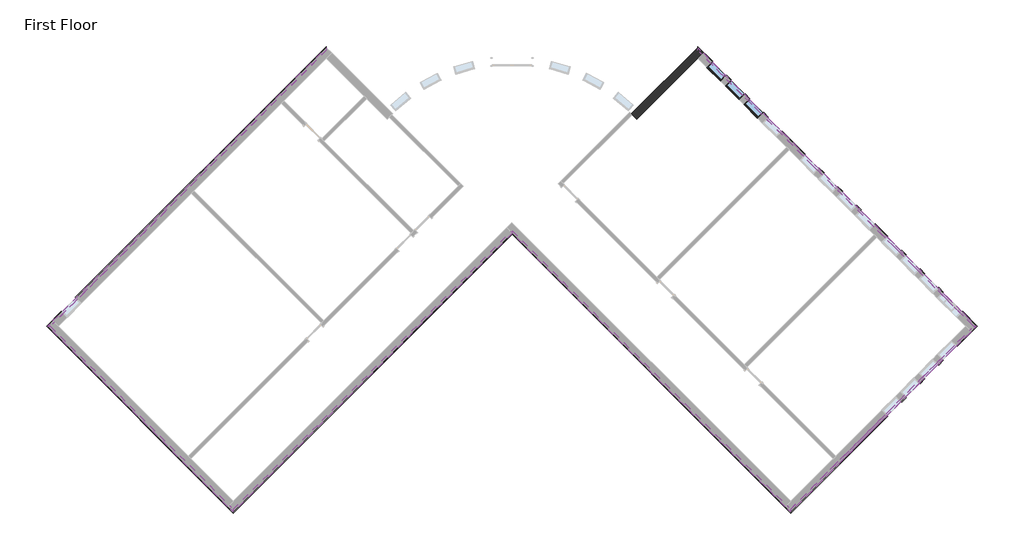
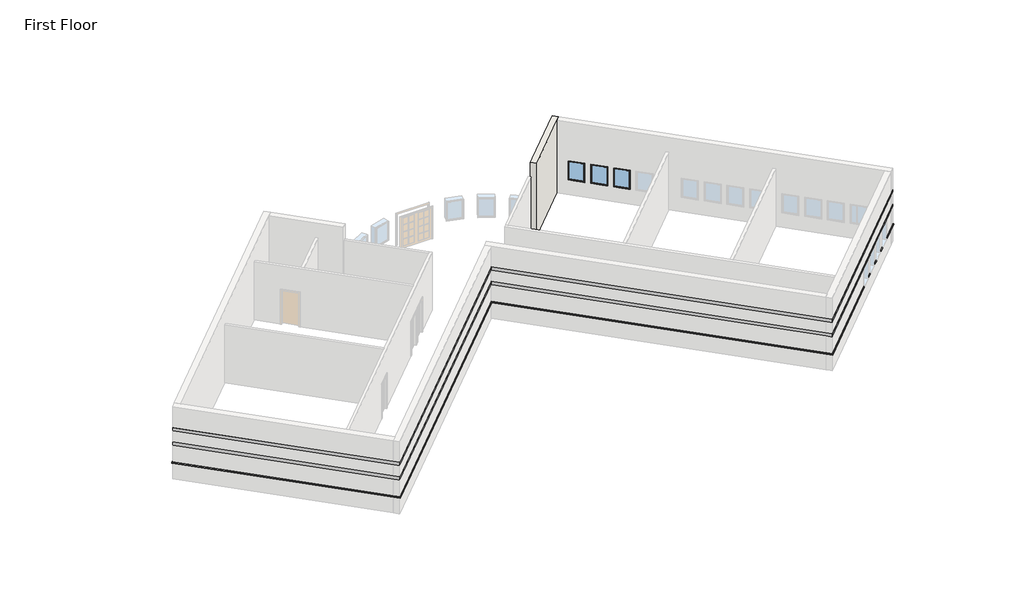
# One storey, part 3 of 3: 18 proxies, 3 windows, 1 wall.
"""IFC4 building model written with IfcOpenShell, lengths in millimetres."""

import ifcopenshell
import ifcopenshell.guid

model = None  # the IFC model being written
_history = None  # IfcOwnerHistory: only IFC2X3 demands one
_inside = {}  # id of a spatial element -> (the spatial element, [elements in it])
_under = {}  # id of a project, library or spatial element -> (it, [spatial elements below it])
_declared = {}  # id of a project -> (the project, [libraries it declares])
_typed = {}  # id of a type object -> (the type object, [elements of that type])
_made_of = {}  # id of a material, layer set ... -> (it, [elements and type objects made of it])


def new_model(schema):
    """Start an empty IFC model of exactly this schema.

    Asked for "IFC4X3", IfcOpenShell would pick the latest addendum, in which some entities
    have other attributes; the version numbers below select the first issue.
    IFC2X3 requires an IfcOwnerHistory on every rooted entity: one is made here for all.
    """
    global model, _history
    if schema == "IFC4X3":
        model = ifcopenshell.file(schema_version=(4, 3, 0, 0))
    else:
        model = ifcopenshell.file(schema=schema)
    _inside.clear()
    _under.clear()
    _declared.clear()
    _typed.clear()
    _made_of.clear()
    _history = None
    if model.schema == "IFC2X3":
        org = make("IfcOrganization", Name="unknown")
        user = make(
            "IfcPersonAndOrganization",
            ThePerson=make("IfcPerson", FamilyName="unknown"),
            TheOrganization=org,
        )
        app = make(
            "IfcApplication",
            ApplicationDeveloper=org,
            Version="unknown",
            ApplicationFullName="unknown",
            ApplicationIdentifier="unknown",
        )
        _history = make(
            "IfcOwnerHistory",
            OwningUser=user,
            OwningApplication=app,
            ChangeAction="ADDED",
            CreationDate=0,
        )
    return model


def make(cls, **values):
    """One entity of the class cls with the attributes given. An attribute that is None is left unset."""
    return model.create_entity(
        cls, **{name: value for name, value in values.items() if value is not None}
    )


def rooted(cls, **values):
    """An entity with a GlobalId (a new one), such as an element, a storey or a relation."""
    return make(cls, GlobalId=ifcopenshell.guid.new(), OwnerHistory=_history, **values)


def si_unit(unit_type, name, prefix=None):
    """IfcSIUnit, for example si_unit("LENGTHUNIT", "METRE", prefix="MILLI")."""
    return make("IfcSIUnit", UnitType=unit_type, Prefix=prefix, Name=name)


def assignment(units):
    """IfcUnitAssignment: the units of a project."""
    return None if units is None else make("IfcUnitAssignment", Units=units)


def point(xyz):
    """IfcCartesianPoint."""
    return None if xyz is None else make("IfcCartesianPoint", Coordinates=xyz)


def direction(xyz):
    """IfcDirection."""
    return None if xyz is None else make("IfcDirection", DirectionRatios=xyz)


def frame(location, z_axis=None, x_axis=None):
    """IfcAxis2Placement3D, a coordinate frame: its origin and axes. An axis left out is left unset."""
    return make(
        "IfcAxis2Placement3D",
        Location=point(location),
        Axis=direction(z_axis),
        RefDirection=direction(x_axis),
    )


def origin():
    """The frame at (0, 0, 0) with its axes left unset."""
    return frame((0.0, 0.0, 0.0))


def place(relative_to, where):
    """IfcLocalPlacement: puts the frame where relative to a parent placement (None: the world)."""
    return make(
        "IfcLocalPlacement", PlacementRelTo=relative_to, RelativePlacement=where
    )


def context(
    kind, dimensions, precision=None, world=None, true_north=None, identifier=None
):
    """IfcGeometricRepresentationContext, for example the 3D "Model" context."""
    return make(
        "IfcGeometricRepresentationContext",
        ContextIdentifier=identifier,
        ContextType=kind,
        CoordinateSpaceDimension=dimensions,
        Precision=precision,
        WorldCoordinateSystem=world,
        TrueNorth=true_north,
    )


def project(units=None, contexts=None):
    """IfcProject with its units and contexts."""
    return rooted(
        "IfcProject",
        Name="project",
        RepresentationContexts=contexts,
        UnitsInContext=assignment(units),
    )


def spatial(cls, under=None, at=None, **own):
    """A site, building, storey or space (cls), placed at a placement, below another one or the project."""
    s = rooted(cls, ObjectPlacement=at, **own)
    if under is not None:
        _under.setdefault(under.id(), (under, []))[1].append(s)
    return s


def polyline(points):
    """IfcPolyline through the points."""
    return make("IfcPolyline", Points=[point(p) for p in points])


def circle_curve(where, radius):
    """IfcCircle in the frame where."""
    return make("IfcCircle", Position=where, Radius=radius)


def outline(outer, holes=None, kind="AREA"):
    """IfcArbitraryClosedProfileDef: a profile drawn as a closed curve; with holes, ...WithVoids."""
    if holes is None:
        return make("IfcArbitraryClosedProfileDef", ProfileType=kind, OuterCurve=outer)
    return make(
        "IfcArbitraryProfileDefWithVoids",
        ProfileType=kind,
        OuterCurve=outer,
        InnerCurves=holes,
    )


def extrude(swept, where, along, depth):
    """IfcExtrudedAreaSolid: the profile swept, set in the frame where, extruded along a direction by depth."""
    return make(
        "IfcExtrudedAreaSolid",
        SweptArea=swept,
        Position=where,
        ExtrudedDirection=direction(along),
        Depth=depth,
    )


def faces_of(points, faces, orient=None, outer=None):
    """IfcFace entities. A face is a list of loops; a loop is a list of indices into points, from 0.

    orient and outer hold one flag for each loop. By default every Orientation is true, the
    first loop of a face is its IfcFaceOuterBound and the others are IfcFaceBound.
    """
    made = []
    for i, loops in enumerate(faces):
        bounds = []
        for j, loop in enumerate(loops):
            is_outer = j == 0 if outer is None else outer[i][j]
            bounds.append(
                make(
                    "IfcFaceOuterBound" if is_outer else "IfcFaceBound",
                    Bound=make("IfcPolyLoop", Polygon=[points[k] for k in loop]),
                    Orientation=True if orient is None else orient[i][j],
                )
            )
        made.append(make("IfcFace", Bounds=bounds))
    return made


def faceted_brep(points, faces, orient=None, outer=None, voids=None):
    """IfcFacetedBrep: a solid bounded by flat faces; with voids (closed shells), ...WithVoids."""
    shared = [point(p) for p in points]
    hull = make("IfcClosedShell", CfsFaces=faces_of(shared, faces, orient, outer))
    if voids is None:
        return make("IfcFacetedBrep", Outer=hull)
    return make(
        "IfcFacetedBrepWithVoids",
        Outer=hull,
        Voids=[
            make(cls, CfsFaces=faces_of(shared, fs, o, b)) for cls, fs, o, b in voids
        ],
    )


def shape(context_of_items, identifier, shape_type, items):
    """IfcShapeRepresentation: the items that make up one representation, for example the "Body"."""
    return make(
        "IfcShapeRepresentation",
        ContextOfItems=context_of_items,
        RepresentationIdentifier=identifier,
        RepresentationType=shape_type,
        Items=items,
    )


def source(mapping_origin, context_of_items, identifier, shape_type, items):
    """IfcRepresentationMap: a shape defined once, which mapped items show again and again."""
    return make(
        "IfcRepresentationMap",
        MappingOrigin=mapping_origin,
        MappedRepresentation=shape(context_of_items, identifier, shape_type, items),
    )


def transform(
    local_origin,
    x_axis=None,
    y_axis=None,
    z_axis=None,
    scale=None,
    scale2=None,
    scale3=None,
    uniform=True,
):
    """IfcCartesianTransformationOperator3D, or its non-uniform kind. x_axis, y_axis, z_axis: its Axis1, 2, 3."""
    if uniform:
        return make(
            "IfcCartesianTransformationOperator3D",
            Axis1=direction(x_axis),
            Axis2=direction(y_axis),
            LocalOrigin=point(local_origin),
            Scale=scale,
            Axis3=direction(z_axis),
        )
    return make(
        "IfcCartesianTransformationOperator3DnonUniform",
        Axis1=direction(x_axis),
        Axis2=direction(y_axis),
        LocalOrigin=point(local_origin),
        Scale=scale,
        Axis3=direction(z_axis),
        Scale2=scale2,
        Scale3=scale3,
    )


def mapped(mapping_source, mapping_target):
    """IfcMappedItem: shows the shape of a source again, moved by a transform."""
    return make(
        "IfcMappedItem", MappingSource=mapping_source, MappingTarget=mapping_target
    )


def made_of(thing, what):
    """Note that an element or type object is made of a material, layer set ...; save() writes the relation."""
    if what is not None:
        _made_of.setdefault(what.id(), (what, []))[1].append(thing)
    return thing


def element(
    cls,
    number,
    at=None,
    inside=None,
    cuts=None,
    type_object=None,
    material=None,
    context=None,
    identifier="Body",
    shape_type=None,
    held_by="IfcProductDefinitionShape",
    body=None,
    shapes=None,
    **own,
):
    """One element of the class cls, such as IfcWall. Its Tag is "e" and its number.

    at: its placement. inside: the storey or other place that contains it. cuts: it is an
    opening in that element (IfcRelVoidsElement). A single representation is given by context,
    identifier, shape_type and body (its items); several are given by shapes. held_by: the class
    of the entity that holds the representations. save() writes the other relations.
    """
    e = rooted(cls, Tag="e%d" % number, ObjectPlacement=at, **own)
    if body is not None:
        shapes = [shape(context, identifier, shape_type, body)]
    if shapes is not None:
        e.Representation = make(held_by, Representations=shapes)
    if inside is not None:
        _inside.setdefault(inside.id(), (inside, []))[1].append(e)
    if cuts is not None:
        rooted(
            "IfcRelVoidsElement", RelatingBuildingElement=cuts, RelatedOpeningElement=e
        )
    if type_object is not None:
        _typed.setdefault(type_object.id(), (type_object, []))[1].append(e)
    return made_of(e, material)


def aggregate(whole, parts):
    """IfcRelAggregates: a whole, such as a stair, and the parts it consists of."""
    return rooted("IfcRelAggregates", RelatingObject=whole, RelatedObjects=parts)


def save(model, path):
    """Write the relations noted so far, then the file.

    IfcRelAggregates (storeys below a building ...), IfcRelContainedInSpatialStructure (elements
    in a storey), IfcRelDefinesByType, IfcRelAssociatesMaterial and IfcRelDeclares: one each for
    every whole, place, type object, material and project.
    """
    for whole, parts in _under.values():
        aggregate(whole, parts)
    for where, things in _inside.values():
        rooted(
            "IfcRelContainedInSpatialStructure",
            RelatedElements=things,
            RelatingStructure=where,
        )
    for kind, things in _typed.values():
        rooted("IfcRelDefinesByType", RelatedObjects=things, RelatingType=kind)
    for what, things in _made_of.values():
        rooted("IfcRelAssociatesMaterial", RelatedObjects=things, RelatingMaterial=what)
    for by, libraries in _declared.values():
        rooted("IfcRelDeclares", RelatingContext=by, RelatedDefinitions=libraries)
    model.write(path)


def plane_surface(at):
    """IfcPlane: the flat surface through the origin of the frame at, square to its z axis."""
    return make("IfcPlane", Position=at)


def cylinder_surface(at, radius):
    """IfcCylindricalSurface: all points at the distance radius from the z axis of the frame at."""
    return make("IfcCylindricalSurface", Position=at, Radius=radius)


def revolved_surface(curve, axis_point, axis_direction):
    """IfcSurfaceOfRevolution: the curve turned about the line through axis_point along axis_direction."""
    return make(
        "IfcSurfaceOfRevolution",
        SweptCurve=make("IfcArbitraryOpenProfileDef", ProfileType="CURVE", Curve=curve),
        AxisPosition=make("IfcAxis1Placement", Location=point(axis_point), Axis=direction(axis_direction)),
    )


def advanced_brep(points, edges, surfaces, faces):
    """IfcAdvancedBrep: a solid bounded by faces that lie on surfaces and meet in shared edges.

    An edge is (start, end): straight between two places in points (the first is 0);
    or (start, end, curve); or (start, end, curve, False) where it runs against its curve.
    A face is (place in surfaces, loops), or (place, loops, False) where it looks against
    its surface's normal. A loop lists edges by number (the first is 1), with a minus sign
    where the edge is run from its end to its start. The first loop is the outer one.
    """
    corners = [point(p) for p in points]
    vertices = [make("IfcVertexPoint", VertexGeometry=c) for c in corners]
    made = []
    for start, end, *more in edges:
        made.append(
            make(
                "IfcEdgeCurve",
                EdgeStart=vertices[start],
                EdgeEnd=vertices[end],
                EdgeGeometry=more[0] if more else make("IfcPolyline", Points=[corners[start], corners[end]]),
                SameSense=more[1] if len(more) > 1 else True,
            )
        )
    hull = []
    for where, loops, *sense in faces:
        bounds = []
        for j, loop in enumerate(loops):
            ring = [make("IfcOrientedEdge", EdgeElement=made[abs(k) - 1], Orientation=k > 0) for k in loop]
            bounds.append(
                make(
                    "IfcFaceOuterBound" if j == 0 else "IfcFaceBound",
                    Bound=make("IfcEdgeLoop", EdgeList=ring),
                    Orientation=True,
                )
            )
        hull.append(make("IfcAdvancedFace", Bounds=bounds, FaceSurface=surfaces[where], SameSense=sense[0] if sense else True))
    return make("IfcAdvancedBrep", Outer=make("IfcClosedShell", CfsFaces=hull))


def window_15c49d37(model_context):
    return source(origin(), model_context, "Body", "SweptSolid", [
        extrude(outline(polyline([(355.6, 128.5875), (-431.8, 128.5875), (-431.8, 141.2875), (355.6, 141.2875), (355.6, 128.5875)])), frame((0.0, 0.0, 977.9), z_axis=(0.0, 0.0, 1.0), x_axis=(1.0, 0.0, 0.0)), (0.0, 0.0, 1.0), 1092.2),
        extrude(outline(polyline([(2114.55, -476.25), (933.45, -476.25), (933.45, 400.05), (2114.55, 400.05), (2114.55, -476.25)]), holes=[polyline([(2070.1, -431.8), (2070.1, 355.6), (977.9, 355.6), (977.9, -431.8), (2070.1, -431.8)])]), frame((0.0, 112.7125, 0.0), z_axis=(0.0, 1.0, 0.0), x_axis=(0.0, 0.0, 1.0)), (0.0, 0.0, 1.0), 44.45),
        extrude(outline(polyline([(2133.6, -495.3), (914.4, -495.3), (914.4, 419.1), (2133.6, 419.1), (2133.6, -495.3)]), holes=[polyline([(2101.85, -463.55), (2101.85, 387.35), (946.15, 387.35), (946.15, -463.55), (2101.85, -463.55)])]), frame((0.0, -176.2125, 0.0), z_axis=(0.0, 1.0, 0.0), x_axis=(0.0, 0.0, 1.0)), (0.0, 0.0, 1.0), 288.925),
        extrude(outline(polyline([(2133.6, 419.1), (2133.6, -495.3), (914.4, -495.3), (914.4, 419.1), (2133.6, 419.1)]), holes=[polyline([(2114.55, 400.05), (933.45, 400.05), (933.45, -476.25), (2114.55, -476.25), (2114.55, 400.05)])]), frame((0.0, 112.7125, 0.0), z_axis=(0.0, 1.0, 0.0), x_axis=(0.0, 0.0, 1.0)), (0.0, 0.0, 1.0), 63.5),
    ])


model = new_model("IFC4")

# Units and contexts
model_context = context("Model", 3, world=origin())
ifc_project = project(units=[si_unit("LENGTHUNIT", "METRE", prefix="MILLI")], contexts=[model_context])

# Site, building, storey
site = spatial("IfcSite", under=ifc_project)
building = spatial("IfcBuilding", under=site)
storey = spatial("IfcBuildingStorey", under=building, Name="First Floor", Elevation=0.0)

# Proxies
placement = place(None, origin())
element("IfcBuildingElementProxy", 1, Name="Wall Sweeps", at=placement, inside=storey, context=model_context, shape_type="Brep", body=[
    faceted_brep([(17381.0808171, -1390.1662438, 1085.85), (17446.187674, -1325.0593869, 1085.85), (17470.8833783, -1300.3636826, 1041.4), (17470.8833783, -1300.3636826, 1016.0), (17446.187674, -1325.0593869, 1016.0), (17381.0808171, -1390.1662438, 1016.0), (17979.3903812, -1988.4758079, 1085.85), (17979.3903812, -1988.4758079, 1016.0), (18158.9955036, -1988.4758079, 1016.0), (18158.9955036, -1988.4758079, 1041.4), (18109.604095, -1988.4758079, 1085.85)], [[[0, 1, 2, 3, 4, 5]], [[6, 7, 8, 9, 10]], [[1, 0, 6, 10]], [[2, 1, 10, 9]], [[3, 2, 9, 8]], [[5, 4, 3, 8, 7]], [[0, 5, 7, 6]]]),
    faceted_brep([(16269.7741222, -278.8595488, 1085.85), (16334.880979, -213.7526919, 1085.85), (16359.5766834, -189.0569876, 1041.4), (16359.5766834, -189.0569876, 1016.0), (16334.880979, -213.7526919, 1016.0), (16269.7741222, -278.8595488, 1016.0), (16485.3002691, -494.3856957, 1085.85), (16485.3002691, -494.3856957, 1016.0), (16550.4071259, -429.2788388, 1016.0), (16575.1028303, -404.5831345, 1016.0), (16575.1028303, -404.5831345, 1041.4), (16550.4071259, -429.2788388, 1085.85)], [[[0, 1, 2, 3, 4, 5]], [[6, 7, 8, 9, 10, 11]], [[1, 0, 6, 11]], [[2, 1, 11, 10]], [[3, 2, 10, 9]], [[5, 4, 3, 9, 8, 7]], [[0, 5, 7, 6]]]),
    faceted_brep([(15407.6695345, 583.2450388, 1085.85), (15472.7763914, 648.3518957, 1085.85), (15497.4720957, 673.0476, 1041.4), (15497.4720957, 673.0476, 1016.0), (15472.7763914, 648.3518957, 1016.0), (15407.6695345, 583.2450388, 1016.0), (15623.1956814, 367.7188919, 1085.85), (15623.1956814, 367.7188919, 1016.0), (15688.3025383, 432.8257488, 1016.0), (15712.9982426, 457.5214531, 1016.0), (15712.9982426, 457.5214531, 1041.4), (15688.3025383, 432.8257488, 1085.85)], [[[0, 1, 2, 3, 4, 5]], [[6, 7, 8, 9, 10, 11]], [[1, 0, 6, 11]], [[2, 1, 11, 10]], [[3, 2, 10, 9]], [[5, 4, 3, 9, 8, 7]], [[0, 5, 7, 6]]]),
    faceted_brep([(14545.5649469, 1445.3496264, 1085.85), (14610.6718038, 1510.4564833, 1085.85), (14635.3675081, 1535.1521876, 1041.4), (14635.3675081, 1535.1521876, 1016.0), (14610.6718038, 1510.4564833, 1016.0), (14545.5649469, 1445.3496264, 1016.0), (14761.0910938, 1229.8234795, 1085.85), (14761.0910938, 1229.8234795, 1016.0), (14826.1979507, 1294.9303364, 1016.0), (14850.893655, 1319.6260407, 1016.0), (14850.893655, 1319.6260407, 1041.4), (14826.1979507, 1294.9303364, 1085.85)], [[[0, 1, 2, 3, 4, 5]], [[6, 7, 8, 9, 10, 11]], [[1, 0, 6, 11]], [[2, 1, 11, 10]], [[3, 2, 10, 9]], [[5, 4, 3, 9, 8, 7]], [[0, 5, 7, 6]]]),
    faceted_brep([(13319.7599864, 2671.154587, 1085.85), (13384.8668433, 2736.2614438, 1085.85), (13409.5625476, 2760.9571482, 1041.4), (13409.5625476, 2760.9571482, 1016.0), (13384.8668433, 2736.2614438, 1016.0), (13319.7599864, 2671.154587, 1016.0), (13898.9865062, 2091.9280671, 1085.85), (13898.9865062, 2091.9280671, 1016.0), (13964.0933631, 2157.034924, 1016.0), (13988.7890674, 2181.7306284, 1016.0), (13988.7890674, 2181.7306284, 1041.4), (13964.0933631, 2157.034924, 1085.85)], [[[0, 1, 2, 3, 4, 5]], [[6, 7, 8, 9, 10, 11]], [[1, 0, 6, 11]], [[2, 1, 11, 10]], [[3, 2, 10, 9]], [[5, 4, 3, 9, 8, 7]], [[0, 5, 7, 6]]]),
    faceted_brep([(12457.6553988, 3533.2591746, 1085.85), (12522.7622556, 3598.3660315, 1085.85), (12547.45796, 3623.0617358, 1041.4), (12547.45796, 3623.0617358, 1016.0), (12522.7622556, 3598.3660315, 1016.0), (12457.6553988, 3533.2591746, 1016.0), (12673.1815457, 3317.7330277, 1085.85), (12673.1815457, 3317.7330277, 1016.0), (12738.2884025, 3382.8398846, 1016.0), (12762.9841069, 3407.5355889, 1016.0), (12762.9841069, 3407.5355889, 1041.4), (12738.2884025, 3382.8398846, 1085.85)], [[[0, 1, 2, 3, 4, 5]], [[6, 7, 8, 9, 10, 11]], [[1, 0, 6, 11]], [[2, 1, 11, 10]], [[3, 2, 10, 9]], [[5, 4, 3, 9, 8, 7]], [[0, 5, 7, 6]]]),
    faceted_brep([(8147.1324606, 7843.7821127, 1085.85), (8212.2393175, 7908.8889696, 1085.85), (8236.9350219, 7933.5846739, 1041.4), (8236.9350219, 7933.5846739, 1016.0), (8212.2393175, 7908.8889696, 1016.0), (8147.1324606, 7843.7821127, 1016.0), (8362.6586076, 7628.2559658, 1085.85), (8362.6586076, 7628.2559658, 1016.0), (8427.7654644, 7693.3628227, 1016.0), (8452.4611688, 7718.058527, 1016.0), (8452.4611688, 7718.058527, 1041.4), (8427.7654644, 7693.3628227, 1085.85)], [[[0, 1, 2, 3, 4, 5]], [[6, 7, 8, 9, 10, 11]], [[1, 0, 6, 11]], [[2, 1, 11, 10]], [[3, 2, 10, 9]], [[5, 4, 3, 9, 8, 7]], [[0, 5, 7, 6]]]),
    faceted_brep([(9009.2370483, 6981.6775251, 1085.85), (9074.3439051, 7046.7843819, 1085.85), (9099.0396095, 7071.4800863, 1041.4), (9099.0396095, 7071.4800863, 1016.0), (9074.3439051, 7046.7843819, 1016.0), (9009.2370483, 6981.6775251, 1016.0), (10086.8677828, 5904.0467905, 1085.85), (10086.8677828, 5904.0467905, 1016.0), (10151.9746397, 5969.1536474, 1016.0), (10176.670344, 5993.8493518, 1016.0), (10176.670344, 5993.8493518, 1041.4), (10151.9746397, 5969.1536474, 1085.85)], [[[0, 1, 2, 3, 4, 5]], [[6, 7, 8, 9, 10, 11]], [[1, 0, 6, 11]], [[2, 1, 11, 10]], [[3, 2, 10, 9]], [[5, 4, 3, 9, 8, 7]], [[0, 5, 7, 6]]]),
    faceted_brep([(10733.4462235, 5257.4683498, 1085.85), (10798.5530804, 5322.5752067, 1085.85), (10823.2487847, 5347.270911, 1041.4), (10823.2487847, 5347.270911, 1016.0), (10798.5530804, 5322.5752067, 1016.0), (10733.4462235, 5257.4683498, 1016.0), (10948.9723704, 5041.9422029, 1085.85), (10948.9723704, 5041.9422029, 1016.0), (11014.0792273, 5107.0490598, 1016.0), (11038.7749316, 5131.7447641, 1016.0), (11038.7749316, 5131.7447641, 1041.4), (11014.0792273, 5107.0490598, 1085.85)], [[[0, 1, 2, 3, 4, 5]], [[6, 7, 8, 9, 10, 11]], [[1, 0, 6, 11]], [[2, 1, 11, 10]], [[3, 2, 10, 9]], [[5, 4, 3, 9, 8, 7]], [[0, 5, 7, 6]]]),
    faceted_brep([(11595.5508111, 4395.3637622, 1085.85), (11660.657668, 4460.4706191, 1085.85), (11685.3533723, 4485.1663234, 1041.4), (11685.3533723, 4485.1663234, 1016.0), (11660.657668, 4460.4706191, 1016.0), (11595.5508111, 4395.3637622, 1016.0), (11811.076958, 4179.8376153, 1085.85), (11811.076958, 4179.8376153, 1016.0), (11876.1838149, 4244.9444722, 1016.0), (11900.8795193, 4269.6401765, 1016.0), (11900.8795193, 4269.6401765, 1041.4), (11876.1838149, 4244.9444722, 1085.85)], [[[0, 1, 2, 3, 4, 5]], [[6, 7, 8, 9, 10, 11]], [[1, 0, 6, 11]], [[2, 1, 11, 10]], [[3, 2, 10, 9]], [[5, 4, 3, 9, 8, 7]], [[0, 5, 7, 6]]]),
    faceted_brep([(5178.0352806, 10812.8792927, 1085.85), (5178.0352806, 10943.0930065, 1085.85), (5178.0352806, 10992.4844151, 1041.4), (5178.0352806, 10992.4844151, 1016.0), (5178.0352806, 10812.8792927, 1016.0), (5776.3448447, 10214.5697287, 1085.85), (5776.3448447, 10214.5697287, 1016.0), (5841.4517016, 10279.6765855, 1016.0), (5866.1474059, 10304.3722899, 1016.0), (5866.1474059, 10304.3722899, 1041.4), (5841.4517016, 10279.6765855, 1085.85), (5362.1305311, 10628.7840422, 1085.85), (5362.1305311, 10628.7840422, 1016.0)], [[[0, 1, 2, 3, 4]], [[5, 6, 7, 8, 9, 10]], [[1, 0, 11, 5, 10]], [[2, 1, 10, 9]], [[3, 2, 9, 8]], [[4, 3, 8, 7, 6, 12]], [[0, 4, 12, 6, 5, 11]]]),
    faceted_brep([(6422.9232854, 9567.9912879, 1085.85), (6488.0301423, 9633.0981448, 1085.85), (6512.7258466, 9657.7938491, 1041.4), (6512.7258466, 9657.7938491, 1016.0), (6488.0301423, 9633.0981448, 1016.0), (6422.9232854, 9567.9912879, 1016.0), (6638.4494323, 9352.465141, 1085.85), (6638.4494323, 9352.465141, 1016.0), (6703.5562892, 9417.5719979, 1016.0), (6728.2519935, 9442.2677022, 1016.0), (6728.2519935, 9442.2677022, 1041.4), (6703.5562892, 9417.5719979, 1085.85)], [[[0, 1, 2, 3, 4, 5]], [[6, 7, 8, 9, 10, 11]], [[1, 0, 6, 11]], [[2, 1, 11, 10]], [[3, 2, 10, 9]], [[5, 4, 3, 9, 8, 7]], [[0, 5, 7, 6]]]),
    faceted_brep([(7285.027873, 8705.8867003, 1085.85), (7350.1347299, 8770.9935572, 1085.85), (7374.8304342, 8795.6892615, 1041.4), (7374.8304342, 8795.6892615, 1016.0), (7350.1347299, 8770.9935572, 1016.0), (7285.027873, 8705.8867003, 1016.0), (7500.5540199, 8490.3605534, 1085.85), (7500.5540199, 8490.3605534, 1016.0), (7565.6608768, 8555.4674103, 1016.0), (7590.3565811, 8580.1631146, 1016.0), (7590.3565811, 8580.1631146, 1041.4), (7565.6608768, 8555.4674103, 1085.85)], [[[0, 1, 2, 3, 4, 5]], [[6, 7, 8, 9, 10, 11]], [[1, 0, 6, 11]], [[2, 1, 11, 10]], [[3, 2, 10, 9]], [[5, 4, 3, 9, 8, 7]], [[0, 5, 7, 6]]]),
])
element("IfcBuildingElementProxy", 2, Name="Wall Sweeps", at=placement, inside=storey, context=model_context, shape_type="Brep", body=[
    faceted_brep([(5178.0352806, 10943.0930065, 2336.8), (5178.0352806, 10943.0930065, 2133.6), (5178.0352806, 10812.8792927, 2133.6), (5178.0352806, 10812.8792927, 2336.8), (18109.604095, -1988.4758079, 2336.8), (17979.3903812, -1988.4758079, 2336.8), (17979.3903812, -1988.4758079, 2133.6), (18109.604095, -1988.4758079, 2133.6), (5427.237388, 10693.8908991, 2336.8), (17446.187674, -1325.0593869, 2133.6), (16550.4071259, -429.2788388, 2133.6), (16334.880979, -213.7526919, 2133.6), (15688.3025383, 432.8257488, 2133.6), (15472.7763914, 648.3518957, 2133.6), (14826.1979507, 1294.9303364, 2133.6), (14610.6718038, 1510.4564833, 2133.6), (13964.0933631, 2157.034924, 2133.6), (13384.8668433, 2736.2614438, 2133.6), (12738.2884025, 3382.8398846, 2133.6), (12522.7622556, 3598.3660315, 2133.6), (11876.1838149, 4244.9444722, 2133.6), (11660.657668, 4460.4706191, 2133.6), (11014.0792273, 5107.0490598, 2133.6), (10798.5530804, 5322.5752067, 2133.6), (10151.9746397, 5969.1536474, 2133.6), (9074.3439051, 7046.7843819, 2133.6), (8427.7654644, 7693.3628227, 2133.6), (8212.2393175, 7908.8889696, 2133.6), (7565.6608768, 8555.4674103, 2133.6), (7350.1347299, 8770.9935572, 2133.6), (6703.5562892, 9417.5719979, 2133.6), (6488.0301423, 9633.0981448, 2133.6), (5841.4517016, 10279.6765855, 2133.6), (5427.237388, 10693.8908991, 2133.6), (17381.0808171, -1390.1662438, 2133.6), (16485.3002691, -494.3856957, 2133.6), (16269.7741222, -278.8595488, 2133.6), (15623.1956814, 367.7188919, 2133.6), (15407.6695345, 583.2450388, 2133.6), (14761.0910938, 1229.8234795, 2133.6), (14545.5649469, 1445.3496264, 2133.6), (13898.9865062, 2091.9280671, 2133.6), (13319.7599864, 2671.154587, 2133.6), (12673.1815457, 3317.7330277, 2133.6), (12457.6553988, 3533.2591746, 2133.6), (11811.076958, 4179.8376153, 2133.6), (11595.5508111, 4395.3637622, 2133.6), (10948.9723704, 5041.9422029, 2133.6), (10733.4462235, 5257.4683498, 2133.6), (10086.8677828, 5904.0467905, 2133.6), (9009.2370483, 6981.6775251, 2133.6), (8362.6586076, 7628.2559658, 2133.6), (8147.1324606, 7843.7821127, 2133.6), (7500.5540199, 8490.3605534, 2133.6), (7285.027873, 8705.8867003, 2133.6), (6638.4494323, 9352.465141, 2133.6), (6422.9232854, 9567.9912879, 2133.6), (5776.3448447, 10214.5697287, 2133.6), (5362.1305311, 10628.7840422, 2133.6), (5362.1305311, 10628.7840422, 2336.8)], [[[0, 1, 2, 3]], [[4, 5, 6, 7]], [[1, 0, 8, 4, 7, 9, 10, 11, 12, 13, 14, 15, 16, 17, 18, 19, 20, 21, 22, 23, 24, 25, 26, 27, 28, 29, 30, 31, 32, 33]], [[2, 1, 33, 32, 31, 30, 29, 28, 27, 26, 25, 24, 23, 22, 21, 20, 19, 18, 17, 16, 15, 14, 13, 12, 11, 10, 9, 7, 6, 34, 35, 36, 37, 38, 39, 40, 41, 42, 43, 44, 45, 46, 47, 48, 49, 50, 51, 52, 53, 54, 55, 56, 57, 58]], [[3, 2, 58, 57, 56, 55, 54, 53, 52, 51, 50, 49, 48, 47, 46, 45, 44, 43, 42, 41, 40, 39, 38, 37, 36, 35, 34, 6, 5, 59]], [[0, 3, 59, 5, 4, 8]]]),
])
element("IfcBuildingElementProxy", 3, Name="Wall Sweeps", at=placement, inside=storey, context=model_context, shape_type="Brep", body=[
    faceted_brep([(5178.0352806, 10943.0930065, 3251.2), (5178.0352806, 10943.0930065, 3048.0), (5178.0352806, 10812.8792927, 3048.0), (5178.0352806, 10812.8792927, 3251.2), (18109.604095, -1988.4758079, 3251.2), (17979.3903812, -1988.4758079, 3251.2), (17979.3903812, -1988.4758079, 3048.0), (18109.604095, -1988.4758079, 3048.0), (5427.237388, 10693.8908991, 3251.2), (5427.237388, 10693.8908991, 3048.0), (5362.1305311, 10628.7840422, 3048.0), (5362.1305311, 10628.7840422, 3251.2)], [[[0, 1, 2, 3]], [[4, 5, 6, 7]], [[1, 0, 8, 4, 7, 9]], [[2, 1, 9, 7, 6, 10]], [[3, 2, 10, 6, 5, 11]], [[0, 3, 11, 5, 4, 8]]]),
])
element("IfcBuildingElementProxy", 4, Name="Wall Sweeps", at=placement, inside=storey, context=model_context, shape_type="Brep", body=[
    faceted_brep([(13898.9865062, -6068.8796829, 1085.85), (13964.0933631, -6133.9865398, 1085.85), (13988.7890674, -6158.6822441, 1041.4), (13988.7890674, -6158.6822441, 1016.0), (13964.0933631, -6133.9865398, 1016.0), (13898.9865062, -6068.8796829, 1016.0), (9488.5582187, -10479.3079703, 1085.85), (9488.5582187, -10479.3079703, 1016.0), (9488.5582187, -10658.9130928, 1016.0), (9488.5582187, -10658.9130928, 1041.4), (9488.5582187, -10609.5216841, 1085.85)], [[[0, 1, 2, 3, 4, 5]], [[6, 7, 8, 9, 10]], [[1, 0, 6, 10]], [[2, 1, 10, 9]], [[3, 2, 9, 8]], [[5, 4, 3, 8, 7]], [[0, 5, 7, 6]]]),
    faceted_brep([(17979.3903812, -1988.4758079, 1085.85), (18109.604095, -1988.4758079, 1085.85), (18158.9955036, -1988.4758079, 1041.4), (18158.9955036, -1988.4758079, 1016.0), (17979.3903812, -1988.4758079, 1016.0), (17131.8787098, -2835.9874793, 1085.85), (17131.8787098, -2835.9874793, 1016.0), (17196.9855667, -2901.0943362, 1016.0), (17221.681271, -2925.7900405, 1016.0), (17221.681271, -2925.7900405, 1041.4), (17196.9855667, -2901.0943362, 1085.85), (17795.2951307, -2172.5710583, 1085.85), (17795.2951307, -2172.5710583, 1016.0)], [[[0, 1, 2, 3, 4]], [[5, 6, 7, 8, 9, 10]], [[1, 0, 11, 5, 10]], [[2, 1, 10, 9]], [[3, 2, 9, 8]], [[4, 3, 8, 7, 6, 12]], [[0, 4, 12, 6, 5, 11]]]),
    faceted_brep([(16485.3002691, -3482.56592, 1085.85), (16550.4071259, -3547.6727769, 1085.85), (16575.1028303, -3572.3684812, 1041.4), (16575.1028303, -3572.3684812, 1016.0), (16550.4071259, -3547.6727769, 1016.0), (16485.3002691, -3482.56592, 1016.0), (16269.7741222, -3698.0920669, 1085.85), (16269.7741222, -3698.0920669, 1016.0), (16334.880979, -3763.1989238, 1016.0), (16359.5766834, -3787.8946281, 1016.0), (16359.5766834, -3787.8946281, 1041.4), (16334.880979, -3763.1989238, 1085.85)], [[[0, 1, 2, 3, 4, 5]], [[6, 7, 8, 9, 10, 11]], [[1, 0, 6, 11]], [[2, 1, 11, 10]], [[3, 2, 10, 9]], [[5, 4, 3, 9, 8, 7]], [[0, 5, 7, 6]]]),
    faceted_brep([(15623.1956814, -4344.6705076, 1085.85), (15688.3025383, -4409.7773645, 1085.85), (15712.9982426, -4434.4730688, 1041.4), (15712.9982426, -4434.4730688, 1016.0), (15688.3025383, -4409.7773645, 1016.0), (15623.1956814, -4344.6705076, 1016.0), (15407.6695345, -4560.1966545, 1085.85), (15407.6695345, -4560.1966545, 1016.0), (15472.7763914, -4625.3035114, 1016.0), (15497.4720957, -4649.9992157, 1016.0), (15497.4720957, -4649.9992157, 1041.4), (15472.7763914, -4625.3035114, 1085.85)], [[[0, 1, 2, 3, 4, 5]], [[6, 7, 8, 9, 10, 11]], [[1, 0, 6, 11]], [[2, 1, 11, 10]], [[3, 2, 10, 9]], [[5, 4, 3, 9, 8, 7]], [[0, 5, 7, 6]]]),
    faceted_brep([(14761.0910938, -5206.7750953, 1085.85), (14826.1979507, -5271.8819521, 1085.85), (14850.893655, -5296.5776565, 1041.4), (14850.893655, -5296.5776565, 1016.0), (14826.1979507, -5271.8819521, 1016.0), (14761.0910938, -5206.7750953, 1016.0), (14545.5649469, -5422.3012422, 1085.85), (14545.5649469, -5422.3012422, 1016.0), (14610.6718038, -5487.408099, 1016.0), (14635.3675081, -5512.1038034, 1016.0), (14635.3675081, -5512.1038034, 1041.4), (14610.6718038, -5487.408099, 1085.85)], [[[0, 1, 2, 3, 4, 5]], [[6, 7, 8, 9, 10, 11]], [[1, 0, 6, 11]], [[2, 1, 11, 10]], [[3, 2, 10, 9]], [[5, 4, 3, 9, 8, 7]], [[0, 5, 7, 6]]]),
])
element("IfcBuildingElementProxy", 5, Name="Wall Sweeps", at=placement, inside=storey, context=model_context, shape_type="Brep", body=[
    faceted_brep([(18109.604095, -1988.4758079, 2336.8), (18109.604095, -1988.4758079, 2133.6), (17979.3903812, -1988.4758079, 2133.6), (17979.3903812, -1988.4758079, 2336.8), (9488.5582187, -10609.5216841, 2336.8), (9488.5582187, -10479.3079703, 2336.8), (9488.5582187, -10479.3079703, 2133.6), (9488.5582187, -10609.5216841, 2133.6), (17860.4019876, -2237.6779152, 2336.8), (13964.0933631, -6133.9865398, 2133.6), (14610.6718038, -5487.408099, 2133.6), (14826.1979507, -5271.8819521, 2133.6), (15472.7763914, -4625.3035114, 2133.6), (15688.3025383, -4409.7773645, 2133.6), (16334.880979, -3763.1989238, 2133.6), (16550.4071259, -3547.6727769, 2133.6), (17196.9855667, -2901.0943362, 2133.6), (17860.4019876, -2237.6779152, 2133.6), (13898.9865062, -6068.8796829, 2133.6), (14545.5649469, -5422.3012422, 2133.6), (14761.0910938, -5206.7750953, 2133.6), (15407.6695345, -4560.1966545, 2133.6), (15623.1956814, -4344.6705076, 2133.6), (16269.7741222, -3698.0920669, 2133.6), (16485.3002691, -3482.56592, 2133.6), (17131.8787098, -2835.9874793, 2133.6), (17795.2951307, -2172.5710583, 2133.6), (17795.2951307, -2172.5710583, 2336.8)], [[[0, 1, 2, 3]], [[4, 5, 6, 7]], [[1, 0, 8, 4, 7, 9, 10, 11, 12, 13, 14, 15, 16, 17]], [[2, 1, 17, 16, 15, 14, 13, 12, 11, 10, 9, 7, 6, 18, 19, 20, 21, 22, 23, 24, 25, 26]], [[3, 2, 26, 25, 24, 23, 22, 21, 20, 19, 18, 6, 5, 27]], [[0, 3, 27, 5, 4, 8]]]),
])
element("IfcBuildingElementProxy", 6, Name="Wall Sweeps", at=placement, inside=storey, context=model_context, shape_type="Brep", body=[
    faceted_brep([(18109.604095, -1988.4758079, 3251.2), (18109.604095, -1988.4758079, 3048.0), (17979.3903812, -1988.4758079, 3048.0), (17979.3903812, -1988.4758079, 3251.2), (9488.5582187, -10609.5216841, 3251.2), (9488.5582187, -10479.3079703, 3251.2), (9488.5582187, -10479.3079703, 3048.0), (9488.5582187, -10609.5216841, 3048.0), (17860.4019876, -2237.6779152, 3251.2), (17860.4019876, -2237.6779152, 3048.0), (17795.2951307, -2172.5710583, 3048.0), (17795.2951307, -2172.5710583, 3251.2)], [[[0, 1, 2, 3]], [[4, 5, 6, 7]], [[1, 0, 8, 4, 7, 9]], [[2, 1, 9, 7, 6, 10]], [[3, 2, 10, 6, 5, 11]], [[0, 3, 11, 5, 4, 8]]]),
])
element("IfcBuildingElementProxy", 7, Name="Wall Sweeps", at=placement, inside=storey, context=model_context, shape_type="Brep", body=[
    faceted_brep([(9488.5582187, -10479.3079703, 1085.85), (9488.5582187, -10609.5216841, 1085.85), (9488.5582187, -10658.9130928, 1041.4), (9488.5582187, -10658.9130928, 1016.0), (9488.5582187, -10479.3079703, 1016.0), (-3443.0105956, 2452.260844, 1085.85), (-3443.0105956, 2452.260844, 1016.0), (-3443.0105956, 2272.6557216, 1016.0), (-3443.0105956, 2272.6557216, 1041.4), (-3443.0105956, 2322.0471303, 1085.85), (9304.4629682, -10295.2127199, 1085.85), (9304.4629682, -10295.2127199, 1016.0)], [[[0, 1, 2, 3, 4]], [[5, 6, 7, 8, 9]], [[1, 0, 10, 5, 9]], [[2, 1, 9, 8]], [[3, 2, 8, 7]], [[4, 3, 7, 6, 11]], [[0, 4, 11, 6, 5, 10]]]),
])
element("IfcBuildingElementProxy", 8, Name="Wall Sweeps", at=placement, inside=storey, context=model_context, shape_type="Brep", body=[
    faceted_brep([(9488.5582187, -10609.5216841, 2336.8), (9488.5582187, -10609.5216841, 2133.6), (9488.5582187, -10479.3079703, 2133.6), (9488.5582187, -10479.3079703, 2336.8), (-3443.0105956, 2322.0471303, 2336.8), (-3443.0105956, 2452.260844, 2336.8), (-3443.0105956, 2452.260844, 2133.6), (-3443.0105956, 2322.0471303, 2133.6), (9239.3561114, -10360.3195767, 2336.8), (9239.3561114, -10360.3195767, 2133.6), (9304.4629682, -10295.2127199, 2133.6), (9304.4629682, -10295.2127199, 2336.8)], [[[0, 1, 2, 3]], [[4, 5, 6, 7]], [[1, 0, 8, 4, 7, 9]], [[2, 1, 9, 7, 6, 10]], [[3, 2, 10, 6, 5, 11]], [[0, 3, 11, 5, 4, 8]]]),
])
element("IfcBuildingElementProxy", 9, Name="Wall Sweeps", at=placement, inside=storey, context=model_context, shape_type="Brep", body=[
    faceted_brep([(9488.5582187, -10609.5216841, 3251.2), (9488.5582187, -10609.5216841, 3048.0), (9488.5582187, -10479.3079703, 3048.0), (9488.5582187, -10479.3079703, 3251.2), (-3443.0105956, 2322.0471303, 3251.2), (-3443.0105956, 2452.260844, 3251.2), (-3443.0105956, 2452.260844, 3048.0), (-3443.0105956, 2322.0471303, 3048.0), (9239.3561114, -10360.3195767, 3251.2), (9239.3561114, -10360.3195767, 3048.0), (9304.4629682, -10295.2127199, 3048.0), (9304.4629682, -10295.2127199, 3251.2)], [[[0, 1, 2, 3]], [[4, 5, 6, 7]], [[1, 0, 8, 4, 7, 9]], [[2, 1, 9, 7, 6, 10]], [[3, 2, 10, 6, 5, 11]], [[0, 3, 11, 5, 4, 8]]]),
])
element("IfcBuildingElementProxy", 10, Name="Wall Sweeps", at=placement, inside=storey, context=model_context, shape_type="Brep", body=[
    faceted_brep([(-3443.0105956, 2452.260844, 1085.85), (-3443.0105956, 2322.0471303, 1085.85), (-3443.0105956, 2272.6557216, 1041.4), (-3443.0105956, 2272.6557216, 1016.0), (-3443.0105956, 2452.260844, 1016.0), (-16374.5794099, -10479.3079703, 1085.85), (-16374.5794099, -10479.3079703, 1016.0), (-16374.5794099, -10658.9130928, 1016.0), (-16374.5794099, -10658.9130928, 1041.4), (-16374.5794099, -10609.5216841, 1085.85), (-3508.1174525, 2387.1539871, 1085.85), (-3508.1174525, 2387.1539871, 1016.0)], [[[0, 1, 2, 3, 4]], [[5, 6, 7, 8, 9]], [[1, 0, 10, 5, 9]], [[2, 1, 9, 8]], [[3, 2, 8, 7]], [[4, 3, 7, 6, 11]], [[0, 4, 11, 6, 5, 10]]]),
])
element("IfcBuildingElementProxy", 11, Name="Wall Sweeps", at=placement, inside=storey, context=model_context, shape_type="Brep", body=[
    faceted_brep([(-3443.0105956, 2322.0471303, 2336.8), (-3443.0105956, 2322.0471303, 2133.6), (-3443.0105956, 2452.260844, 2133.6), (-3443.0105956, 2452.260844, 2336.8), (-16374.5794099, -10609.5216841, 2336.8), (-16374.5794099, -10479.3079703, 2336.8), (-16374.5794099, -10479.3079703, 2133.6), (-16374.5794099, -10609.5216841, 2133.6), (-3508.1174525, 2387.1539871, 2133.6), (-3508.1174525, 2387.1539871, 2336.8)], [[[0, 1, 2, 3]], [[4, 5, 6, 7]], [[1, 0, 4, 7]], [[2, 1, 7, 6, 8]], [[3, 2, 8, 6, 5, 9]], [[0, 3, 9, 5, 4]]]),
])
element("IfcBuildingElementProxy", 12, Name="Wall Sweeps", at=placement, inside=storey, context=model_context, shape_type="Brep", body=[
    faceted_brep([(-3443.0105956, 2322.0471303, 3251.2), (-3443.0105956, 2322.0471303, 3048.0), (-3443.0105956, 2452.260844, 3048.0), (-3443.0105956, 2452.260844, 3251.2), (-16374.5794099, -10609.5216841, 3251.2), (-16374.5794099, -10479.3079703, 3251.2), (-16374.5794099, -10479.3079703, 3048.0), (-16374.5794099, -10609.5216841, 3048.0), (-3508.1174525, 2387.1539871, 3048.0), (-3508.1174525, 2387.1539871, 3251.2)], [[[0, 1, 2, 3]], [[4, 5, 6, 7]], [[1, 0, 4, 7]], [[2, 1, 7, 6, 8]], [[3, 2, 8, 6, 5, 9]], [[0, 3, 9, 5, 4]]]),
])
element("IfcBuildingElementProxy", 13, Name="Wall Sweeps", at=placement, inside=storey, context=model_context, shape_type="Brep", body=[
    faceted_brep([(-16374.5794099, -10479.3079703, 1085.85), (-16374.5794099, -10609.5216841, 1085.85), (-16374.5794099, -10658.9130928, 1041.4), (-16374.5794099, -10658.9130928, 1016.0), (-16374.5794099, -10479.3079703, 1016.0), (-24865.4115724, -1988.4758079, 1085.85), (-24865.4115724, -1988.4758079, 1016.0), (-25045.0166948, -1988.4758079, 1016.0), (-25045.0166948, -1988.4758079, 1041.4), (-24995.6252862, -1988.4758079, 1085.85), (-16558.6746604, -10295.2127199, 1085.85), (-16558.6746604, -10295.2127199, 1016.0)], [[[0, 1, 2, 3, 4]], [[5, 6, 7, 8, 9]], [[1, 0, 10, 5, 9]], [[2, 1, 9, 8]], [[3, 2, 8, 7]], [[4, 3, 7, 6, 11]], [[0, 4, 11, 6, 5, 10]]]),
])
element("IfcBuildingElementProxy", 14, Name="Wall Sweeps", at=placement, inside=storey, context=model_context, shape_type="Brep", body=[
    faceted_brep([(-16374.5794099, -10609.5216841, 2336.8), (-16374.5794099, -10609.5216841, 2133.6), (-16374.5794099, -10479.3079703, 2133.6), (-16374.5794099, -10479.3079703, 2336.8), (-24995.6252862, -1988.4758079, 2336.8), (-24865.4115724, -1988.4758079, 2336.8), (-24865.4115724, -1988.4758079, 2133.6), (-24995.6252862, -1988.4758079, 2133.6), (-16623.7815173, -10360.3195767, 2336.8), (-16623.7815173, -10360.3195767, 2133.6), (-16558.6746604, -10295.2127199, 2133.6), (-16558.6746604, -10295.2127199, 2336.8)], [[[0, 1, 2, 3]], [[4, 5, 6, 7]], [[1, 0, 8, 4, 7, 9]], [[2, 1, 9, 7, 6, 10]], [[3, 2, 10, 6, 5, 11]], [[0, 3, 11, 5, 4, 8]]]),
])
element("IfcBuildingElementProxy", 15, Name="Wall Sweeps", at=placement, inside=storey, context=model_context, shape_type="Brep", body=[
    faceted_brep([(-16374.5794099, -10609.5216841, 3251.2), (-16374.5794099, -10609.5216841, 3048.0), (-16374.5794099, -10479.3079703, 3048.0), (-16374.5794099, -10479.3079703, 3251.2), (-24995.6252862, -1988.4758079, 3251.2), (-24865.4115724, -1988.4758079, 3251.2), (-24865.4115724, -1988.4758079, 3048.0), (-24995.6252862, -1988.4758079, 3048.0), (-16623.7815173, -10360.3195767, 3251.2), (-16623.7815173, -10360.3195767, 3048.0), (-16558.6746604, -10295.2127199, 3048.0), (-16558.6746604, -10295.2127199, 3251.2)], [[[0, 1, 2, 3]], [[4, 5, 6, 7]], [[1, 0, 8, 4, 7, 9]], [[2, 1, 9, 7, 6, 10]], [[3, 2, 10, 6, 5, 11]], [[0, 3, 11, 5, 4, 8]]]),
])
element("IfcBuildingElementProxy", 16, Name="Wall Sweeps", at=placement, inside=storey, context=model_context, shape_type="Brep", body=[
    faceted_brep([(-23620.5235676, -743.5878031, 1085.85), (-23685.6304245, -678.4809462, 1085.85), (-23710.3261288, -653.7852419, 1041.4), (-23710.3261288, -653.7852419, 1016.0), (-23685.6304245, -678.4809462, 1016.0), (-23620.5235676, -743.5878031, 1016.0), (-12064.0564718, 10812.8792927, 1085.85), (-12064.0564718, 10812.8792927, 1016.0), (-12064.0564718, 10992.4844151, 1016.0), (-12064.0564718, 10992.4844151, 1041.4), (-12064.0564718, 10943.0930065, 1085.85)], [[[0, 1, 2, 3, 4, 5]], [[6, 7, 8, 9, 10]], [[1, 0, 6, 10]], [[2, 1, 10, 9]], [[3, 2, 9, 8]], [[5, 4, 3, 8, 7]], [[0, 5, 7, 6]]]),
    faceted_brep([(-24865.4115724, -1988.4758079, 1085.85), (-24995.6252862, -1988.4758079, 1085.85), (-25045.0166948, -1988.4758079, 1041.4), (-25045.0166948, -1988.4758079, 1016.0), (-24865.4115724, -1988.4758079, 1016.0), (-24267.1020084, -1390.1662438, 1085.85), (-24267.1020084, -1390.1662438, 1016.0), (-24332.2088652, -1325.0593869, 1016.0), (-24356.9045696, -1300.3636826, 1016.0), (-24356.9045696, -1300.3636826, 1041.4), (-24332.2088652, -1325.0593869, 1085.85), (-24681.3163219, -1804.3805574, 1085.85), (-24681.3163219, -1804.3805574, 1016.0)], [[[0, 1, 2, 3, 4]], [[5, 6, 7, 8, 9, 10]], [[1, 0, 11, 5, 10]], [[2, 1, 10, 9]], [[3, 2, 9, 8]], [[4, 3, 8, 7, 6, 12]], [[0, 4, 12, 6, 5, 11]]]),
])
element("IfcBuildingElementProxy", 17, Name="Wall Sweeps", at=placement, inside=storey, context=model_context, shape_type="Brep", body=[
    faceted_brep([(-24995.6252862, -1988.4758079, 2336.8), (-24995.6252862, -1988.4758079, 2133.6), (-24865.4115724, -1988.4758079, 2133.6), (-24865.4115724, -1988.4758079, 2336.8), (-12064.0564718, 10943.0930065, 2336.8), (-12064.0564718, 10812.8792927, 2336.8), (-12064.0564718, 10812.8792927, 2133.6), (-12064.0564718, 10943.0930065, 2133.6), (-24746.4231788, -1739.2737005, 2336.8), (-23685.6304245, -678.4809462, 2133.6), (-24332.2088652, -1325.0593869, 2133.6), (-24746.4231788, -1739.2737005, 2133.6), (-23620.5235676, -743.5878031, 2133.6), (-24267.1020084, -1390.1662438, 2133.6), (-24681.3163219, -1804.3805574, 2133.6), (-24681.3163219, -1804.3805574, 2336.8)], [[[0, 1, 2, 3]], [[4, 5, 6, 7]], [[1, 0, 8, 4, 7, 9, 10, 11]], [[2, 1, 11, 10, 9, 7, 6, 12, 13, 14]], [[3, 2, 14, 13, 12, 6, 5, 15]], [[0, 3, 15, 5, 4, 8]]]),
])
element("IfcBuildingElementProxy", 18, Name="Wall Sweeps", at=placement, inside=storey, context=model_context, shape_type="Brep", body=[
    faceted_brep([(-24995.6252862, -1988.4758079, 3251.2), (-24995.6252862, -1988.4758079, 3048.0), (-24865.4115724, -1988.4758079, 3048.0), (-24865.4115724, -1988.4758079, 3251.2), (-12064.0564718, 10943.0930065, 3251.2), (-12064.0564718, 10812.8792927, 3251.2), (-12064.0564718, 10812.8792927, 3048.0), (-12064.0564718, 10943.0930065, 3048.0), (-24746.4231788, -1739.2737005, 3251.2), (-24746.4231788, -1739.2737005, 3048.0), (-24681.3163219, -1804.3805574, 3048.0), (-24681.3163219, -1804.3805574, 3251.2)], [[[0, 1, 2, 3]], [[4, 5, 6, 7]], [[1, 0, 8, 4, 7, 9]], [[2, 1, 9, 7, 6, 10]], [[3, 2, 10, 6, 5, 11]], [[0, 3, 11, 5, 4, 8]]]),
])

# Wall
element("IfcWall", 19, ObjectType="Exterior - Split Face and CMU on Mtl. Stud", at=placement, inside=storey, context=model_context, shape_type="AdvancedBrep", body=[
    advanced_brep(
    [(2346.973313, 7613.6268242, 0.0), (5178.0352806, 10444.6887918, 0.0), (5427.237388, 10693.8908991, 0.0), (5427.237388, 10693.8908991, 1016.0), (5362.1305311, 10628.7840422, 1016.0), (5362.1305311, 10628.7840422, 1085.85), (5427.237388, 10693.8908991, 1085.85), (5427.237388, 10693.8908991, 2133.6), (5362.1305311, 10628.7840422, 2133.6), (5362.1305311, 10628.7840422, 2336.8), (5427.237388, 10693.8908991, 2336.8), (5427.237388, 10693.8908991, 3048.0), (5362.1305311, 10628.7840422, 3048.0), (5362.1305311, 10628.7840422, 3251.2), (5427.237388, 10693.8908991, 3251.2), (5427.237388, 10693.8908991, 4572.0), (5178.0352806, 10444.6887918, 4572.0), (2346.973313, 7613.6268242, 4572.0), (2102.2428123, 7867.3005381, 4572.0), (2351.4472641, 8116.50499, 4572.0), (5178.0352806, 10943.0930065, 4572.0), (5178.0352806, 10943.0930065, 3251.2), (2351.4472641, 8116.50499, 3251.2), (2286.3398143, 8051.3975402, 3251.2), (2286.3398143, 8051.3975402, 3048.0), (2351.4472641, 8116.50499, 3048.0), (5178.0352806, 10943.0930065, 3048.0), (5178.0352806, 10943.0930065, 2336.8), (2351.4472641, 8116.50499, 2336.8), (2286.3398143, 8051.3975402, 2336.8), (2286.3398143, 8051.3975402, 2133.6), (2351.4472641, 8116.50499, 2133.6), (5178.0352806, 10943.0930065, 2133.6), (5178.0352806, 10943.0930065, 1085.85), (2351.4472641, 8116.50499, 1085.85), (2286.3398143, 8051.3975402, 1085.85), (2286.3398143, 8051.3975402, 1016.0), (2351.4472641, 8116.50499, 1016.0), (5178.0352806, 10943.0930065, 1016.0), (5178.0352806, 10943.0930065, 0.0), (2351.4472641, 8116.50499, 0.0), (2102.2428123, 7867.3005381, 0.0), (2167.2578198, 7802.1018319, 0.0), (5243.1421375, 10877.9861496, 0.0), (2351.3577606, 7986.2017727, 1016.0), (2351.3577606, 7986.2017727, 1085.85), (5178.0352806, 10812.8792927, 1085.85), (5178.0352806, 10812.8792927, 1016.0), (2351.3577606, 7986.2017727, 2133.6), (2351.3577606, 7986.2017727, 2336.8), (5178.0352806, 10812.8792927, 2336.8), (5178.0352806, 10812.8792927, 2133.6), (5178.0352806, 10812.8792927, 3048.0), (2351.3577606, 7986.2017727, 3048.0), (2351.3577606, 7986.2017727, 3251.2), (5178.0352806, 10812.8792927, 3251.2), (2132.6031084, 7837.04408, 0.0)],
    [
        (0, 1),
        (1, 2),
        (2, 3),
        (3, 4),
        (4, 5),
        (5, 6),
        (6, 7),
        (7, 8),
        (8, 9),
        (9, 10),
        (10, 11),
        (11, 12),
        (12, 13),
        (13, 14),
        (14, 15),
        (15, 16),
        (16, 17),
        (17, 0),
        (18, 19),
        (19, 20),
        (20, 21),
        (21, 22),
        (22, 23),
        (23, 24),
        (24, 25),
        (25, 26),
        (26, 27),
        (27, 28),
        (28, 29),
        (29, 30),
        (30, 31),
        (31, 32),
        (32, 33),
        (33, 34),
        (34, 35),
        (35, 36),
        (36, 37),
        (37, 38),
        (38, 39),
        (39, 40),
        (40, 41),
        (41, 18),
        (15, 20),
        (18, 17, circle_curve(frame((-3443.0105956, 2272.6557216, 4572.0), z_axis=(0.0, 0.0, -1.0), x_axis=(1.0, 0.0, 0.0)), 7877.175)),
        (0, 42, circle_curve(frame((-3443.0105956, 2272.6557216, 0.0), z_axis=(0.0, 0.0, 1.0), x_axis=(1.0, 0.0, 0.0)), 7877.175)),
        (42, 43),
        (43, 2),
        (44, 45),
        (45, 46),
        (46, 47),
        (47, 44),
        (48, 49),
        (49, 50),
        (50, 51),
        (51, 48),
        (52, 53),
        (53, 54),
        (54, 55),
        (55, 52),
        (14, 21),
        (43, 39),
        (38, 3),
        (6, 33),
        (32, 7),
        (10, 27),
        (26, 11),
        (46, 5),
        (4, 47),
        (50, 9),
        (8, 51),
        (55, 13),
        (12, 52),
        (42, 56, circle_curve(frame((-3443.0105956, 2272.6557216, 0.0), z_axis=(0.0, 0.0, 1.0), x_axis=(1.0, 0.0, 0.0)), 7877.175)),
        (56, 41, circle_curve(frame((-3443.0105956, 2272.6557216, 0.0), z_axis=(0.0, 0.0, 1.0), x_axis=(1.0, 0.0, 0.0)), 7877.175)),
        (45, 35, circle_curve(frame((-3443.0105956, 2272.6557216, 1085.85), z_axis=(0.0, 0.0, 1.0), x_axis=(-0.7040995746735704, 0.7101012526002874, 0.0)), 8137.525)),
        (36, 44, circle_curve(frame((-3443.0105956, 2272.6557216, 1016.0), z_axis=(0.0, 0.0, -1.0), x_axis=(-0.7040995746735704, 0.7101012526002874, 0.0)), 8137.525)),
        (30, 48, circle_curve(frame((-3443.0105956, 2272.6557216, 2133.6), z_axis=(0.0, 0.0, -1.0), x_axis=(-0.7040995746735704, 0.7101012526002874, 0.0)), 8137.525)),
        (29, 49, circle_curve(frame((-3443.0105956, 2272.6557216, 2336.8), z_axis=(0.0, 0.0, -1.0), x_axis=(-0.7040995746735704, 0.7101012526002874, 0.0)), 8137.525)),
        (24, 53, circle_curve(frame((-3443.0105956, 2272.6557216, 3048.0), z_axis=(0.0, 0.0, -1.0), x_axis=(-0.7040995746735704, 0.7101012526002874, 0.0)), 8137.525)),
        (23, 54, circle_curve(frame((-3443.0105956, 2272.6557216, 3251.2), z_axis=(0.0, 0.0, -1.0), x_axis=(-0.7040995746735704, 0.7101012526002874, 0.0)), 8137.525)),
    ],
    [
        plane_surface(frame((2409.8713313, 7676.5248424, 0.0), z_axis=(0.7071067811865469, -0.7071067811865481, 0.0), x_axis=(0.7071067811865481, 0.7071067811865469, 0.0))),
        plane_surface(frame((2160.6692239, 7925.7269498, 0.0), z_axis=(-0.7071067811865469, 0.7071067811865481, 0.0), x_axis=(-0.7071067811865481, -0.7071067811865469, 0.0))),
        plane_surface(frame((5302.6363343, 10569.2898454, 4572.0), z_axis=(0.0, 0.0, 1.0), x_axis=(-0.707106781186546, 0.7071067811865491, 0.0))),
        plane_surface(frame((2475.22429, 7741.8778012, 0.0), z_axis=(0.0, 0.0, -1.0), x_axis=(-0.7071067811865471, 0.7071067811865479, 0.0))),
        plane_surface(frame((2351.3577606, 7986.2017727, 1016.0), z_axis=(-0.7071067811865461, 0.7071067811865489, 0.0), x_axis=(0.7071067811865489, 0.7071067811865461, 0.0))),
        plane_surface(frame((2351.3577606, 7986.2017727, 2133.6), z_axis=(-0.7071067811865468, 0.7071067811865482, 0.0), x_axis=(0.7071067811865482, 0.7071067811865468, 0.0))),
        plane_surface(frame((2351.3577606, 7986.2017727, 3048.0), z_axis=(-0.7071067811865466, 0.7071067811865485, 0.0), x_axis=(0.7071067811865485, 0.7071067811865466, 0.0))),
        plane_surface(frame((5178.0352806, 10943.0930065, 0.0), z_axis=(0.7071067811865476, 0.7071067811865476, 0.0), x_axis=(-0.7071067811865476, 0.7071067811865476, 0.0))),
        plane_surface(frame((5178.0352806, 10812.8792927, 1016.0), z_axis=(0.7071067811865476, 0.7071067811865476, 0.0), x_axis=(0.7071067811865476, -0.7071067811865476, 0.0))),
        plane_surface(frame((5178.0352806, 10812.8792927, 2133.6), z_axis=(0.7071067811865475, 0.7071067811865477, 0.0), x_axis=(0.7071067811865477, -0.7071067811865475, 0.0))),
        plane_surface(frame((5178.0352806, 10812.8792927, 3048.0), z_axis=(0.7071067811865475, 0.7071067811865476, 0.0), x_axis=(0.7071067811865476, -0.7071067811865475, 0.0))),
        plane_surface(frame((0.0, 0.0, 0.0), z_axis=(0.0, 0.0, -1.0), x_axis=(1.0, 0.0, 0.0))),
        plane_surface(frame((-3443.0105956, 2272.6557216, 1085.85), z_axis=(0.0, 0.0, -1.0), x_axis=(-0.7040995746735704, 0.7101012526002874, 0.0))),
        plane_surface(frame((-3443.0105956, 2272.6557216, 1016.0), z_axis=(0.0, 0.0, 1.0), x_axis=(-0.7040995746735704, 0.7101012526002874, 0.0))),
        cylinder_surface(frame((-3443.0105956, 2272.6557216, 1016.0), z_axis=(0.0, 0.0, -1.0), x_axis=(-0.7040995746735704, 0.7101012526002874, 0.0)), 8137.525),
        plane_surface(frame((-3443.0105956, 2272.6557216, 2133.6), z_axis=(0.0, 0.0, 1.0), x_axis=(-0.7040995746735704, 0.7101012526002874, 0.0))),
        cylinder_surface(frame((-3443.0105956, 2272.6557216, 2133.6), z_axis=(0.0, 0.0, -1.0), x_axis=(-0.7040995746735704, 0.7101012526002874, 0.0)), 8137.525),
        plane_surface(frame((-3443.0105956, 2272.6557216, 2336.8), z_axis=(0.0, 0.0, -1.0), x_axis=(-0.7040995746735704, 0.7101012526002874, 0.0))),
        plane_surface(frame((-3443.0105956, 2272.6557216, 3048.0), z_axis=(0.0, 0.0, 1.0), x_axis=(-0.7040995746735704, 0.7101012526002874, 0.0))),
        cylinder_surface(frame((-3443.0105956, 2272.6557216, 3048.0), z_axis=(0.0, 0.0, -1.0), x_axis=(-0.7040995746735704, 0.7101012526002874, 0.0)), 8137.525),
        plane_surface(frame((-3443.0105956, 2272.6557216, 3251.2), z_axis=(0.0, 0.0, -1.0), x_axis=(-0.7040995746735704, 0.7101012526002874, 0.0))),
        revolved_surface(polyline([(4434.1644044, 2272.6557216, 0.0), (4434.1644044, 2272.6557216, 4572.0)]), (-3443.0105956, 2272.6557216, 0.0), (0.0, 0.0, -1.0)),
    ],
    [
        (0, [[1, 2, 3, 4, 5, 6, 7, 8, 9, 10, 11, 12, 13, 14, 15, 16, 17, 18]]),
        (1, [[19, 20, 21, 22, 23, 24, 25, 26, 27, 28, 29, 30, 31, 32, 33, 34, 35, 36, 37, 38, 39, 40, 41, 42]]),
        (2, [[-17, -16, 43, -20, -19, 44]]),
        (3, [[-2, -1, 45, 46, 47]]),
        (4, [[48, 49, 50, 51]]),
        (5, [[52, 53, 54, 55]]),
        (6, [[56, 57, 58, 59]]),
        (7, [[-43, -15, 60, -21]]),
        (7, [[-47, 61, -39, 62, -3]]),
        (7, [[-7, 63, -33, 64]]),
        (7, [[65, -27, 66, -11]]),
        (8, [[-50, 67, -5, 68]]),
        (9, [[-54, 69, -9, 70]]),
        (10, [[-59, 71, -13, 72]]),
        (11, [[-41, -40, -61, -46, 73, 74]]),
        (12, [[-49, 75, -35, -34, -63, -6, -67]]),
        (13, [[-51, -68, -4, -62, -38, -37, 76]]),
        (14, [[-48, -76, -36, -75]]),
        (15, [[-55, -70, -8, -64, -32, -31, 77]]),
        (16, [[-52, -77, -30, 78]]),
        (17, [[-53, -78, -29, -28, -65, -10, -69]]),
        (18, [[-56, -72, -12, -66, -26, -25, 79]]),
        (19, [[-57, -79, -24, 80]]),
        (20, [[-58, -80, -23, -22, -60, -14, -71]]),
        (21, [[-44, -42, -74, -73, -45, -18]]),
    ],
),
])

# Windows
window_shape = window_15c49d37(model_context)
element("IfcWindow", 20, ObjectType="Fixed : 36\" x 48\"", at=placement, inside=storey, context=model_context, shape_type="MappedRepresentation", body=[
    mapped(window_shape, transform((6013.1990999, 9858.7270799, 0.0), x_axis=(-0.7071067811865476, 0.7071067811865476, 0.0), y_axis=(-0.7071067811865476, -0.7071067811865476, 0.0), z_axis=(0.0, 0.0, 1.0))),
])
element("IfcWindow", 21, ObjectType="Fixed : 36\" x 48\"", at=placement, inside=storey, context=model_context, shape_type="MappedRepresentation", body=[
    mapped(window_shape, transform((6875.3036875, 8996.6224922, 0.0), x_axis=(-0.7071067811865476, 0.7071067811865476, 0.0), y_axis=(-0.7071067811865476, -0.7071067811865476, 0.0), z_axis=(0.0, 0.0, 1.0))),
])
element("IfcWindow", 22, ObjectType="Fixed : 36\" x 48\"", at=placement, inside=storey, context=model_context, shape_type="MappedRepresentation", body=[
    mapped(window_shape, transform((7737.4082751, 8134.5179046, 0.0), x_axis=(-0.7071067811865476, 0.7071067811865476, 0.0), y_axis=(-0.7071067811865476, -0.7071067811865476, 0.0), z_axis=(0.0, 0.0, 1.0))),
])

save(model, "model.ifc")
